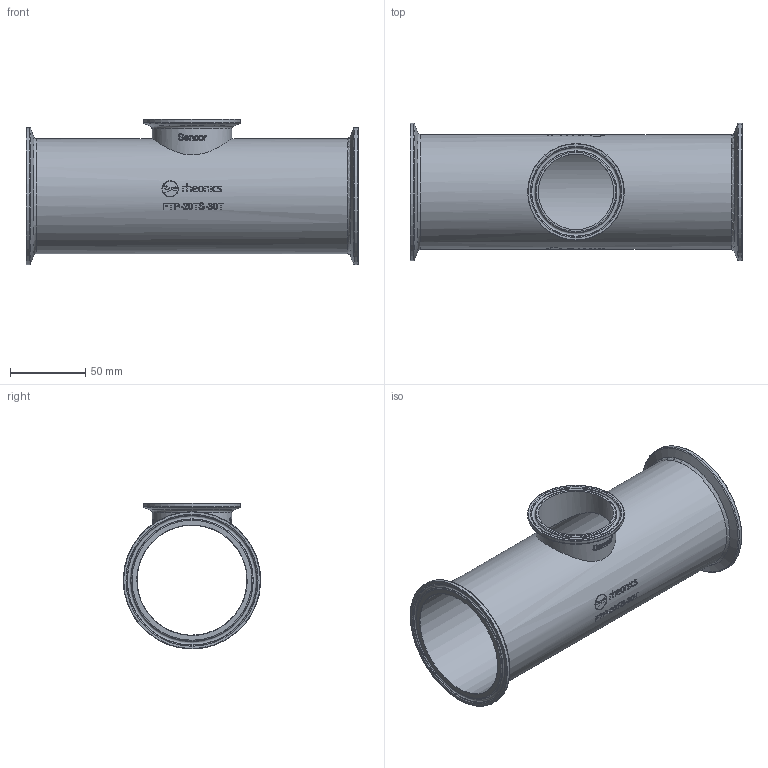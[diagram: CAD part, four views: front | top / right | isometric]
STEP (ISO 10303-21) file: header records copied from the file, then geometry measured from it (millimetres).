
FILE_DESCRIPTION(/* description */ ('Unknown'),/* implementation_level */ '2;1');
FILE_NAME(/* name */ 'FTP-20TS-30T',/* time_stamp */ '2024-12-26T12:23:31-05:00',/* author */ ('Unknown'),/* organization */ ('Unknown'),/* preprocessor_version */ 'ST-DEVELOPER v16.7',/* originating_system */ 'Solid Edge',/* authorisation */ 'Unknown');
FILE_SCHEMA (('AUTOMOTIVE_DESIGN {1 0 10303 214 3 1 1}'));
Products named in the file (1): FTP-20TS-30T
Bounding box: 220 x 91 x 96.6 mm (x, y, z)
Volume: 103588.4 mm3; surface area: 115236.9 mm2
Topology: 1 solids, 1 shells, 518 faces, 1291 edges, 852 vertices
Faces by surface type: bspline 238, plane 170, cylinder 81, torus 20, cone 9
Full cylindrical faces by diameter (mm): 50 x1, 53 x1, 64 x1, 72.9 x1, 76.2 x1, 91 x2
Entity records: 45313 total; most frequent: CARTESIAN_POINT 30996, ORIENTED_EDGE 2474, DIRECTION 1519, EDGE_CURVE 1237, VERTEX_POINT 847, EDGE_LOOP 648, FACE_BOUND 648, STYLED_ITEM 518
